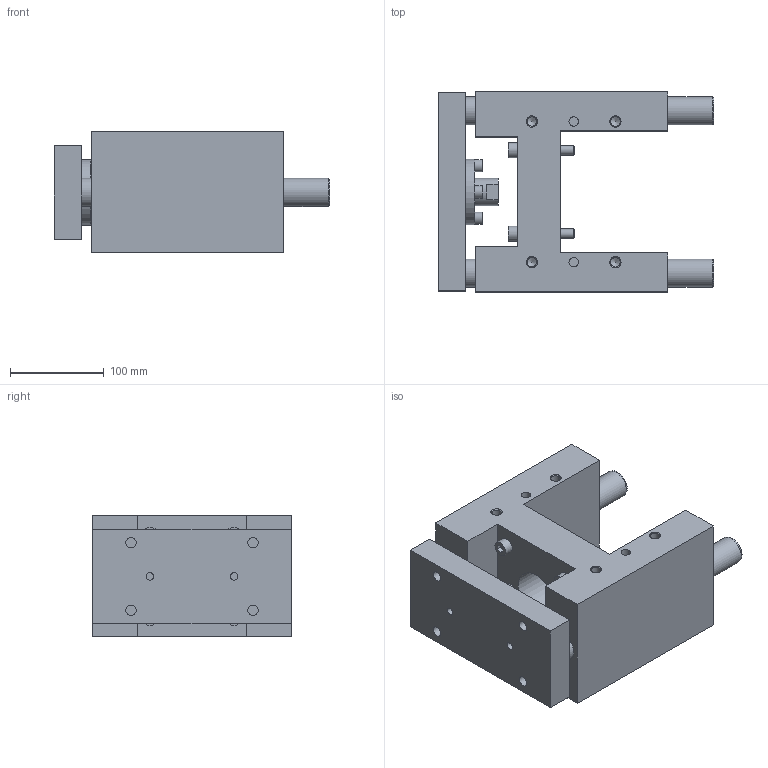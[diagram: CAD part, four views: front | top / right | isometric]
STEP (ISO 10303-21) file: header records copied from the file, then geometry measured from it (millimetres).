
FILE_DESCRIPTION( ( 'STEP AP214' ), '1' );
FILE_NAME( 'U:/Etudes/Top Solid/BIBLIO 3D AVM/TOP/PNEUMATIQUE/GUIDAGES/Type 32 (en H)/R_Renforcée/329R0130.step', '2005-05-27T09:18:11', ( ' ' ), ( ' ' ), 'XStep 1.0', ' ', ' ' );
FILE_SCHEMA( ( 'automotive_design' ) );
Length unit declared in the file: metre
Products named in the file (2): 1; 2
Bounding box: 294 x 213 x 129 mm (x, y, z)
Volume: 3630178 mm3; surface area: 386293.1 mm2
Topology: 2 solids, 7 shells, 207 faces, 460 edges, 303 vertices
Faces by surface type: plane 118, cylinder 68, cone 21
Full cylindrical faces by diameter (mm): 8 x10, 8.5 x4, 10 x10, 10.106 x12, 11 x8, 13 x4, 16 x4, 18 x4, 18.376 x2, 29 x1, 30 x4, 32 x1, 42 x1, 45 x1, 55 x1, 70 x1
Entity records: 6989 total; most frequent: CARTESIAN_POINT 1089, DIRECTION 880, ORIENTED_EDGE 678, EDGE_LOOP 360, AXIS2_PLACEMENT_3D 340, EDGE_CURVE 339, VERTEX_POINT 277, FACE_OUTER_BOUND 275
